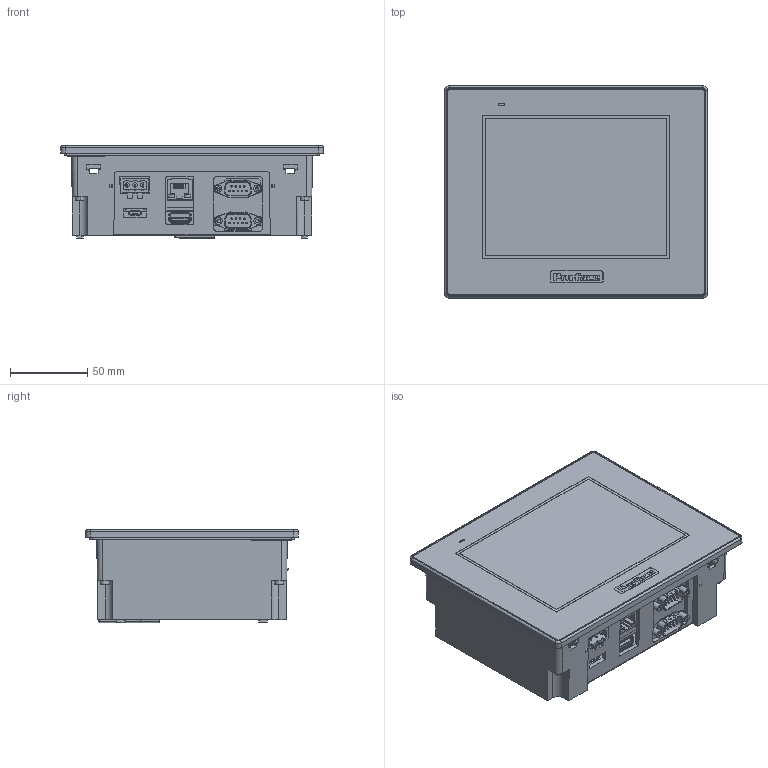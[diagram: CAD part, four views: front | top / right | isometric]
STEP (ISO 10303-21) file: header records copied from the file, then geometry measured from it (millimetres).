
FILE_DESCRIPTION((''),'2;1');
FILE_NAME('PFXSTC6300TADDKE_3D-SIMPLIFIED_ASM','2023-05-15T09:08:14',('melanie.cordero'),(''),'CREO PARAMETRIC BY PTC INC, 2018260','CREO PARAMETRIC BY PTC INC, 2018260','');
FILE_SCHEMA(('CONFIG_CONTROL_DESIGN'));
Length unit declared in the file: inch
Products named in the file (28): CORPS_7_1_2_1; CORPS_7_1_2_2; CORPS_7_1_2_3; CORPS_7_1_2_ASM; PRT0001_1_1_1; PRT0002_1_1_1; PRT0003_1_1_1; PRT0004_1_1_1; PRT0005_1_1_1; VIS_1_1_1; PRT0006_1_1_1; PRT0007_1_1_1_1; PRT0007_1_2_1_1; PRT0007_1_3_1_1; PRT0007_1_4_1_1; PRT0007_1_5_1_1; PRT0007_1_6_1_1; PRT0007_1_7_1_1; PRT0007_1_8_1_1; PRT0007_1_ASM_1_ASM_1_ASM; PRT0001_3_1_1; PRT0001_3_2_1; PRT0001_3_ASM_1_ASM; PRT0008_1; TOTO_2; TATA_2; PFXSTC6300TADDKE_3D-SIMPLIFIED1_ASM; PFXSTC6300TADDKE_3D-SIMPLIFIED_ASM
Assembly tree (32 placements, depth 4):
  PFXSTC6300TADDKE_3D-SIMPLIFIED_ASM
    PFXSTC6300TADDKE_3D-SIMPLIFIED1_ASM
      CORPS_7_1_2_ASM
        CORPS_7_1_2_1
        CORPS_7_1_2_2
        CORPS_7_1_2_3
      PRT0001_1_1_1
      PRT0002_1_1_1
      PRT0003_1_1_1
      PRT0004_1_1_1
      PRT0005_1_1_1  x2
      VIS_1_1_1  x5
      PRT0006_1_1_1
      PRT0007_1_ASM_1_ASM_1_ASM
        PRT0007_1_1_1_1
        PRT0007_1_2_1_1
        PRT0007_1_3_1_1
        PRT0007_1_4_1_1
        PRT0007_1_5_1_1
        PRT0007_1_6_1_1
        PRT0007_1_7_1_1
        PRT0007_1_8_1_1
      PRT0001_3_ASM_1_ASM
        PRT0001_3_1_1
        PRT0001_3_2_1
      PRT0008_1
      TOTO_2
      TATA_2
Bounding box: 169.5 x 137 x 60.16 mm (x, y, z)
Volume: 502471.6 mm3; surface area: 187510.2 mm2
Topology: 28 solids, 28 shells, 2300 faces, 6174 edges, 4121 vertices
Faces by surface type: plane 1596, cylinder 580, extrusion 76, bspline 36, cone 8, torus 4
Entity records: 71991 total; most frequent: CARTESIAN_POINT 15492, ORIENTED_EDGE 11812, DIRECTION 11183, EDGE_CURVE 5906, VECTOR 4595, LINE 4519, VERTEX_POINT 3943, AXIS2_PLACEMENT_3D 3294
